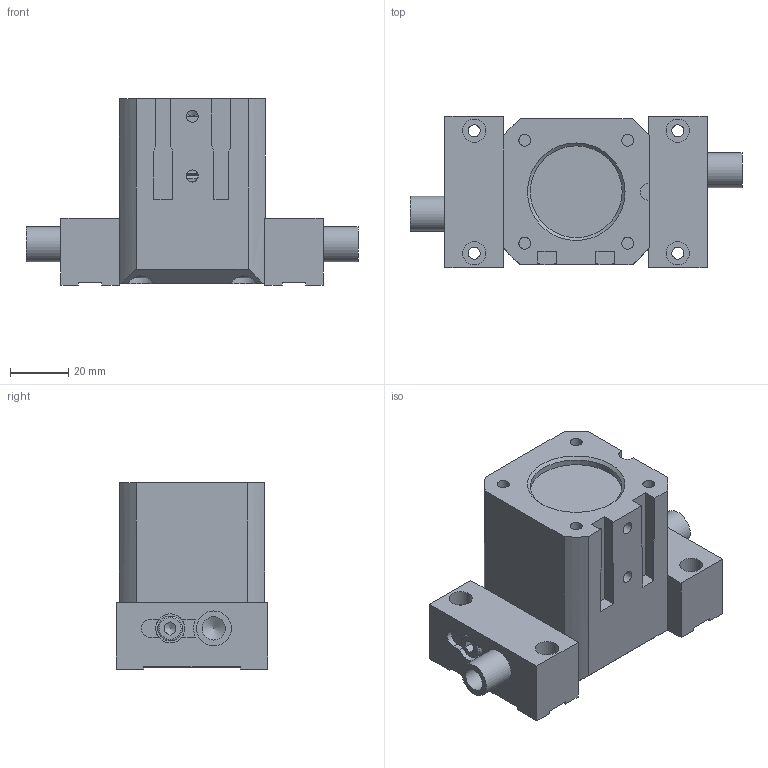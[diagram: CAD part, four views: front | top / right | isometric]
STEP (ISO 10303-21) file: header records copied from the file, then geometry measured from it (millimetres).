
FILE_DESCRIPTION((''),'2;1');
FILE_NAME('T:\CAD\Standard\Daten\3D-Datenbank\GP\4 - 3D-CAD-Daten GP 050-125\GP063\step-Daten\G-GP063-l2-GÖ+UB closed.stp','2013-11-07T15:27:52',('Dirk'),(''),'Autodesk Inventor 2011','Autodesk Inventor 2011','');
FILE_SCHEMA(('AUTOMOTIVE_DESIGN { 1 0 10303 214 1 1 1 1 }'));
Length unit declared in the file: millimetre
Products named in the file (1): Bauteil98
Bounding box: 114.01 x 52 x 64 mm (x, y, z)
Volume: 168017.5 mm3; surface area: 57351.6 mm2
Topology: 1 solids, 16 shells, 381 faces, 987 edges, 644 vertices
Faces by surface type: plane 225, cylinder 103, cone 34, torus 18, bspline 1
Full cylindrical faces by diameter (mm): 2.459 x2, 4.134 x12, 5 x2, 5.5 x2, 6.647 x1, 8 x7, 8.5 x7, 10 x8, 12 x7, 14 x6, 16 x2, 18.6 x1, 21.1 x1, 25 x1, 28.9 x1, 31.5 x1, 33 x1, 33.6 x2, 35.5 x2, 40 x5
Entity records: 12669 total; most frequent: CARTESIAN_POINT 3691, DIRECTION 1748, ORIENTED_EDGE 1608, EDGE_CURVE 804, AXIS2_PLACEMENT_3D 661, VERTEX_POINT 580, EDGE_LOOP 576, VECTOR 426
